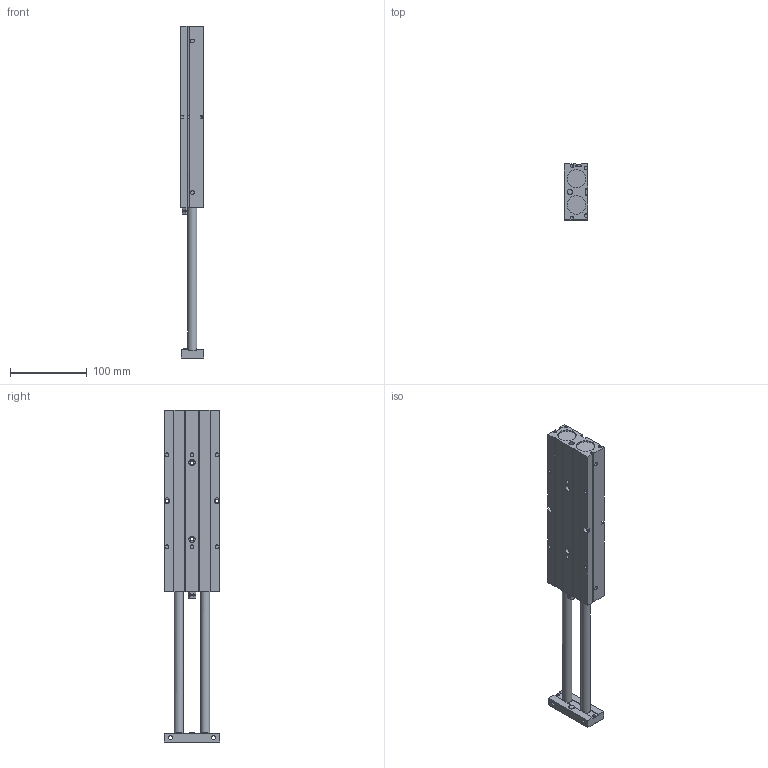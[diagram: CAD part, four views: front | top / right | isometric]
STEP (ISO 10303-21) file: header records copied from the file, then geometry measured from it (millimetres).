
FILE_DESCRIPTION((''),'2;1');
FILE_NAME('I:\3D電子目錄\氣缸\TD\TD25\TD25\TD25x175.stp','2007-08-06T09:52:32',('Administrator'),(''),'Autodesk Inventor 2008','Autodesk Inventor 2008','');
FILE_SCHEMA(('AUTOMOTIVE_DESIGN { 1 0 10303 214 1 1 1 1 }'));
Length unit declared in the file: millimetre
Products named in the file (1): TD25X175
Bounding box: 31 x 73 x 433 mm (x, y, z)
Volume: 556400 mm3; surface area: 93118 mm2
Topology: 1 solids, 3 shells, 197 faces, 494 edges, 324 vertices
Faces by surface type: plane 132, cylinder 52, cone 7, bspline 4, torus 2
Full cylindrical faces by diameter (mm): 4 x2, 4.5 x4, 5 x10, 7 x2, 8 x4, 10 x2, 11 x2, 12 x4, 24 x4
Entity records: 6021 total; most frequent: CARTESIAN_POINT 1449, DIRECTION 915, ORIENTED_EDGE 878, EDGE_CURVE 439, VERTEX_POINT 314, AXIS2_PLACEMENT_3D 312, VECTOR 291, LINE 291
